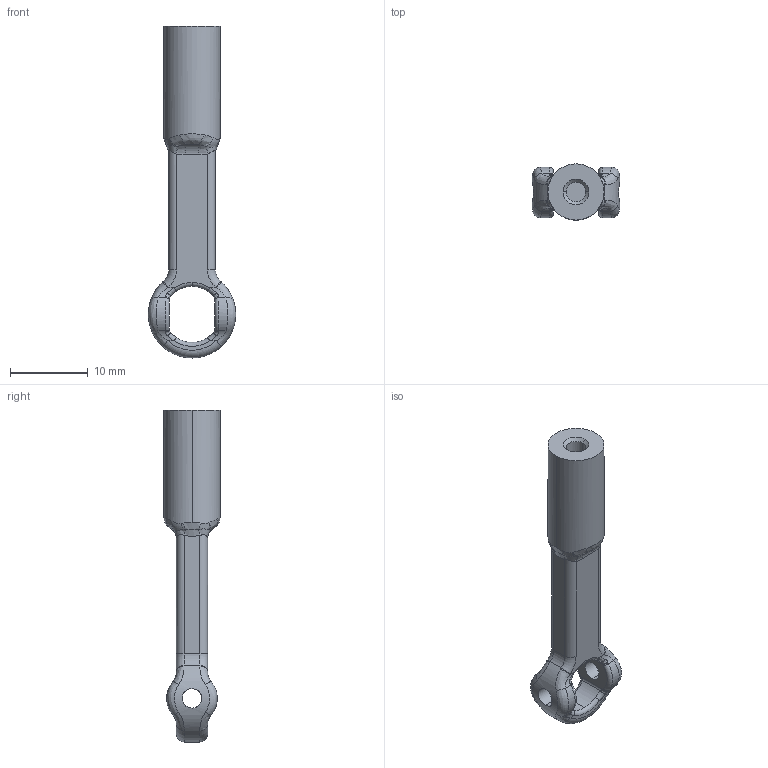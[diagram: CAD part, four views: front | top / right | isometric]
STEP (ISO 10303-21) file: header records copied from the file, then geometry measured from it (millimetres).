
FILE_DESCRIPTION (( 'STEP AP214' ), '1' );
FILE_NAME ('Òÿãà 26.STEP', '2019-03-21T14:19:08', ( '' ), ( '' ), 'SwSTEP 2.0', 'SolidWorks 2018', '' );
FILE_SCHEMA (( 'AUTOMOTIVE_DESIGN' ));
Length unit declared in the file: millimetre
Products named in the file (1): ﾒ聰 26
Bounding box: 11.2 x 7.21 x 42.6 mm (x, y, z)
Volume: 1198.6 mm3; surface area: 1146 mm2
Topology: 1 solids, 1 shells, 131 faces, 312 edges, 180 vertices
Faces by surface type: bspline 54, cylinder 37, torus 28, plane 10, cone 2
Entity records: 7548 total; most frequent: CARTESIAN_POINT 4822, ORIENTED_EDGE 620, DIRECTION 506, EDGE_CURVE 310, AXIS2_PLACEMENT_3D 228, VERTEX_POINT 180, CIRCLE 150, EDGE_LOOP 136
